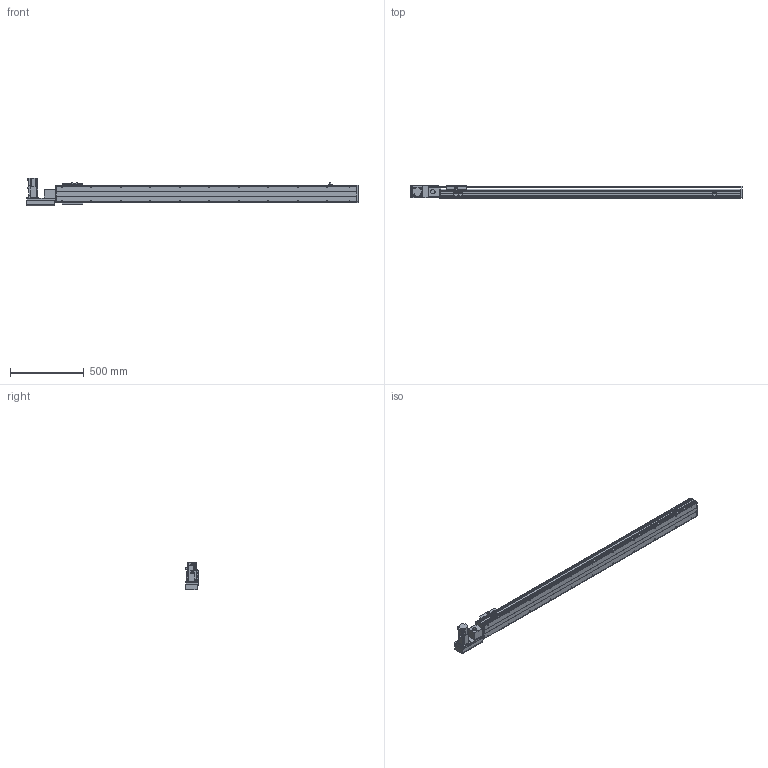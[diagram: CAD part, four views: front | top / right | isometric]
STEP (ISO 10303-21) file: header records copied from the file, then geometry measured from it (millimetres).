
FILE_DESCRIPTION(/* description */ ('STEP AP214'),/* implementation_level */ '2;1');
FILE_NAME(/* name */ 'PBS120-P40-S1750-L-T40-C1-N(0)',/* time_stamp */ '2022-06-05T02:27:03+02:00',/* author */ ('License CC BY-ND 4.0'),/* organization */ ('CADENAS'),/* preprocessor_version */ 'ST-DEVELOPER v18.102',/* originating_system */ 'PARTsolutions',/* authorisation */ ' ');
FILE_SCHEMA (('AUTOMOTIVE_DESIGN {1 0 10303 214 3 1 1}'));
Length unit declared in the file: millimetre
Products named in the file (7): PBS120-P40-S1750-L-T40-C1-N(0); PBS120_sensor; PBS120_plant; PBS120_sliser; T40-p1; PBS120T-L_motors; PBS120-S1750()_body
Assembly tree (8 placements, depth 2):
  PBS120-P40-S1750-L-T40-C1-N(0)
    PBS120_sensor  x3
    PBS120_plant
    PBS120_sliser
    T40-p1
    PBS120T-L_motors
    PBS120-S1750()_body
Bounding box: 2251 x 83 x 189.7 mm (x, y, z)
Volume: 8402509.8 mm3; surface area: 1702360.5 mm2
Topology: 8 solids, 8 shells, 846 faces, 2186 edges, 1405 vertices
Faces by surface type: plane 555, cylinder 235, cone 54, torus 2
Full cylindrical faces by diameter (mm): 2.459 x6, 3.242 x4, 4 x2, 4.134 x4, 4.5 x10, 4.917 x26, 5.5 x11, 6 x2, 6.6 x1, 7 x2, 8.5 x4, 9 x4, 12 x1, 14 x1, 30 x2, 40 x1, 50 x2
Entity records: 21954 total; most frequent: DIRECTION 3812, CARTESIAN_POINT 3731, ORIENTED_EDGE 3538, EDGE_CURVE 1769, AXIS2_PLACEMENT_3D 1292, LINE 1228, VECTOR 1228, VERTEX_POINT 1211
